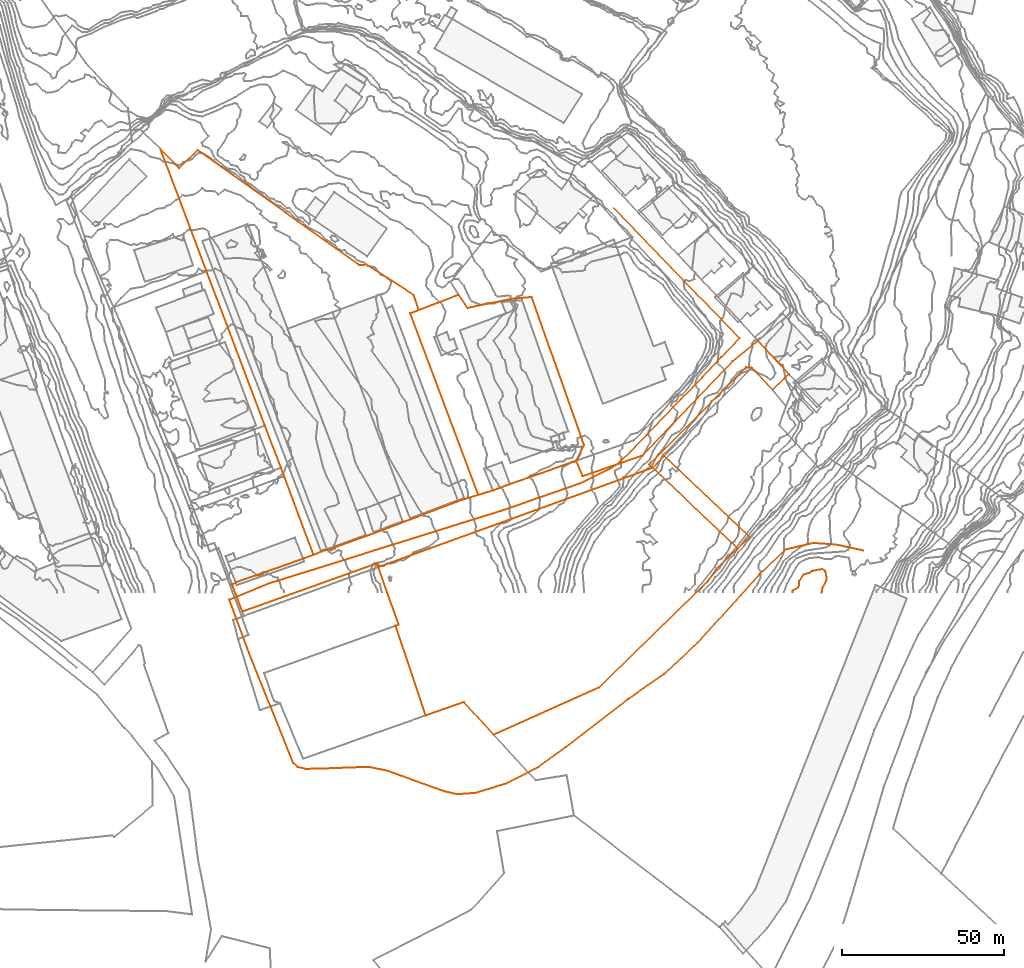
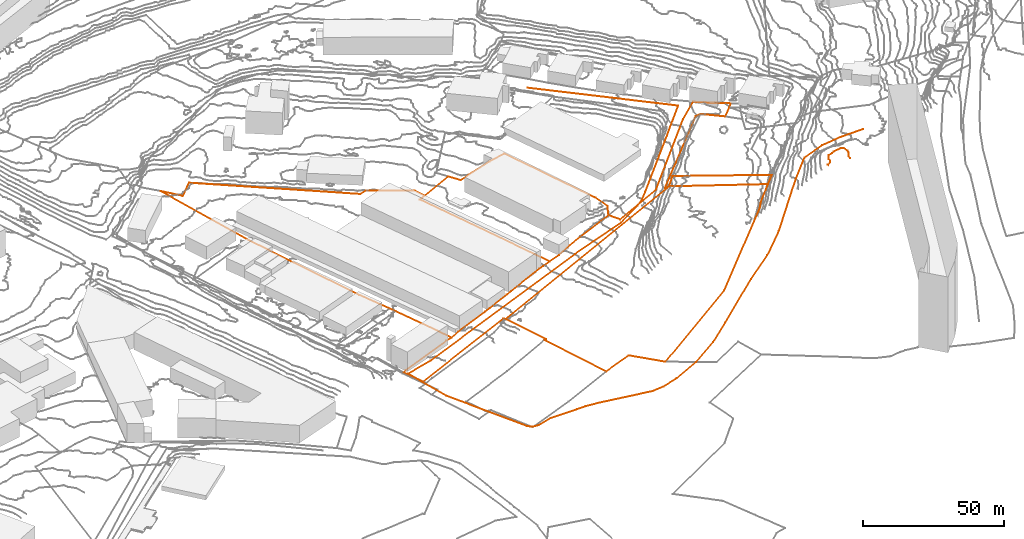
# Not in any storey, part 164 of 419: 8 proxies.
"""IFC2X3 model written with IfcOpenShell, lengths in metres."""

from ifc_helpers import new_model, entity, si_unit, frame, origin_with_axes, place, context, subcontext, project, element, save


model = new_model("IFC2X3")

# Units and contexts
model_context = context("Model", 3, precision=1e-05, world=origin_with_axes())
body_context = subcontext(model_context, "Body", "Model", "MODEL_VIEW")
ifc_project = project(units=[si_unit("AREAUNIT", "SQUARE_METRE"), si_unit("LENGTHUNIT", "METRE")], contexts=[model_context])

# Proxies
proxy_1_placement = place(None, frame((357.4920204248, -3.9023090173, 22.0), z_axis=(0.0, 0.0, 1.0), x_axis=(1.0, 0.0, 0.0)))
element("IfcBuildingElementProxy", 1, at=proxy_1_placement, Name="Route 0", ObjectType="NOTDEFINED", context=body_context, shape_type="GeometricCurveSet", body=[
    entity("IfcGeometricCurveSet", [entity("IfcPolyline", [entity("IfcCartesianPoint", [0.0, 0.0, 0.0]), entity("IfcCartesianPoint", [6.1, -16.4000000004, -1.7]), entity("IfcCartesianPoint", [19.7, -50.2999999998, 0.9]), entity("IfcCartesianPoint", [21.1, -51.5, 0.9]), entity("IfcCartesianPoint", [23.5, -52.1000000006, 1.1]), entity("IfcCartesianPoint", [28.4, -52.0, 2.4]), entity("IfcCartesianPoint", [39.4, -51.6000000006, 2.1]), entity("IfcCartesianPoint", [43.0, -51.5, 2.1]), entity("IfcCartesianPoint", [48.4, -52.6000000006, 2.5]), entity("IfcCartesianPoint", [66.2, -59.0, 5.1]), entity("IfcCartesianPoint", [70.1, -59.9000000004, 6.3]), entity("IfcCartesianPoint", [75.7, -59.5, 7.6]), entity("IfcCartesianPoint", [85.2999999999, -56.6000000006, 9.6]), entity("IfcCartesianPoint", [95.2, -51.5, 11.5]), entity("IfcCartesianPoint", [103.7999999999, -45.2999999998, 13.3]), entity("IfcCartesianPoint", [122.7999999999, -30.6000000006, 16.6]), entity("IfcCartesianPoint", [134.1, -22.7000000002, 18.1]), entity("IfcCartesianPoint", [144.2999999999, -13.2000000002, 19.2]), entity("IfcCartesianPoint", [163.4, 7.8999999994, 22.4]), entity("IfcCartesianPoint", [171.4, 15.5, 24.3]), entity("IfcCartesianPoint", [179.7999999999, 17.5, 25.4]), entity("IfcCartesianPoint", [187.0, 17.0, 26.8]), entity("IfcCartesianPoint", [195.2999999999, 15.2000000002, 28.4])])]),
])
proxy_2_placement = place(None, frame((357.4920204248, -3.9023090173, 22.0), z_axis=(0.0, 0.0, 1.0), x_axis=(1.0, 0.0, 0.0)))
element("IfcBuildingElementProxy", 2, at=proxy_2_placement, Name="Route 146", ObjectType="NOTDEFINED", context=body_context, shape_type="GeometricCurveSet", body=[
    entity("IfcGeometricCurveSet", [entity("IfcPolyline", [entity("IfcCartesianPoint", [118.4, 120.7999999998, 9.2]), entity("IfcCartesianPoint", [157.2, 80.5999999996, 12.2]), entity("IfcCartesianPoint", [151.5, 74.7000000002, 11.4]), entity("IfcCartesianPoint", [145.6, 68.5, 10.6]), entity("IfcCartesianPoint", [123.6, 45.7000000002, 7.9]), entity("IfcCartesianPoint", [120.2999999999, 42.3999999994, 7.6]), entity("IfcCartesianPoint", [117.2999999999, 40.3999999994, 7.2]), entity("IfcCartesianPoint", [107.9, 35.7999999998, 6.0]), entity("IfcCartesianPoint", [84.2999999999, 27.5999999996, 5.6]), entity("IfcCartesianPoint", [12.1, 5.0, -1.6]), entity("IfcCartesianPoint", [0.0, 0.0, 0.0])])]),
])
proxy_3_placement = place(None, frame((487.8620204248, 36.7676909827, 32.8464848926), z_axis=(0.0, 0.0, 1.0), x_axis=(1.0, 0.0, 0.0)))
element("IfcBuildingElementProxy", 3, at=proxy_3_placement, Name="Cadastre 354", ObjectType="NOTDEFINED", context=body_context, shape_type="GeometricCurveSet", body=[
    entity("IfcGeometricCurveSet", [entity("IfcPolyline", [entity("IfcCartesianPoint", [29.87, -21.3300000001, 7.4404658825]), entity("IfcCartesianPoint", [26.21, -24.8600000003, 6.8554594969]), entity("IfcCartesianPoint", [0.0, 0.0, 0.0]), entity("IfcCartesianPoint", [3.5600000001, 3.6100000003, 1.0324484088]), entity("IfcCartesianPoint", [29.87, -21.3300000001, 7.4404658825])])]),
])
proxy_4_placement = place(None, frame((403.3820204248, 6.1576909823, 23.5521357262), z_axis=(0.0, 0.0, 1.0), x_axis=(1.0, 0.0, 0.0)))
element("IfcBuildingElementProxy", 4, at=proxy_4_placement, Name="Cadastre 356", ObjectType="NOTDEFINED", context=body_context, shape_type="GeometricCurveSet", body=[
    entity("IfcGeometricCurveSet", [entity("IfcPolyline", [entity("IfcCartesianPoint", [110.6899999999, 5.75, 16.1498086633]), entity("IfcCartesianPoint", [104.23, -0.46, 14.5959037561]), entity("IfcCartesianPoint", [101.5599999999, -4.2199999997, 15.0809048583]), entity("IfcCartesianPoint", [68.03, -37.0299999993, 10.8760641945]), entity("IfcCartesianPoint", [35.59, -51.5999999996, 0.2730640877]), entity("IfcCartesianPoint", [26.36, -41.5299999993, 0.1678635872]), entity("IfcCartesianPoint", [14.62, -45.6799999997, -0.1539361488]), entity("IfcCartesianPoint", [5.35, -18.0499999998, -0.0101358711]), entity("IfcCartesianPoint", [6.2999999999, -17.7199999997, -0.1920349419]), entity("IfcCartesianPoint", [0.0, 0.0, 0.0]), entity("IfcCartesianPoint", [84.48, 30.6100000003, 9.2943491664]), entity("IfcCartesianPoint", [110.6899999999, 5.75, 16.1498086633])])]),
])
proxy_5_placement = place(None, frame((413.2020204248, 84.3676909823, 24.4697653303), z_axis=(0.0, 0.0, 1.0), x_axis=(1.0, 0.0, 0.0)))
element("IfcBuildingElementProxy", 5, at=proxy_5_placement, Name="Cadastre 360", ObjectType="NOTDEFINED", context=body_context, shape_type="GeometricCurveSet", body=[
    entity("IfcGeometricCurveSet", [entity("IfcPolyline", [entity("IfcCartesianPoint", [51.14, -45.4399999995, 2.8231346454]), entity("IfcCartesianPoint", [30.8, -52.6199999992, 1.1098951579]), entity("IfcCartesianPoint", [25.5600000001, -54.5599999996, 0.1137132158]), entity("IfcCartesianPoint", [21.04, -55.9299999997, -0.2841448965]), entity("IfcCartesianPoint", [0.0, 0.0, 0.0]), entity("IfcCartesianPoint", [2.65, 0.9900000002, 0.0665310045]), entity("IfcCartesianPoint", [14.9700000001, 5.7200000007, 1.2118404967]), entity("IfcCartesianPoint", [17.7100000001, 1.6699999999, 1.1282824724]), entity("IfcCartesianPoint", [31.1900000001, 4.4300000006, 2.8782350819]), entity("IfcCartesianPoint", [37.4400000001, 5.0100000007, 3.6849243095]), entity("IfcCartesianPoint", [51.76, -35.3699999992, 4.0172153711]), entity("IfcCartesianPoint", [53.5600000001, -40.5499999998, 2.9470462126]), entity("IfcCartesianPoint", [51.14, -45.4399999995, 2.8231346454])])]),
])
proxy_6_placement = place(None, frame((358.3720204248, 0.837690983, 19.3137602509), z_axis=(0.0, 0.0, 1.0), x_axis=(1.0, 0.0, 0.0)))
element("IfcBuildingElementProxy", 6, at=proxy_6_placement, Name="Cadastre 361", ObjectType="NOTDEFINED", context=body_context, shape_type="GeometricCurveSet", body=[
    entity("IfcGeometricCurveSet", [entity("IfcPolyline", [entity("IfcCartesianPoint", [105.97, 38.0899999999, 7.9791397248]), entity("IfcCartesianPoint", [107.98, 33.3199999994, 8.3509921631]), entity("IfcCartesianPoint", [126.37, 39.7299999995, 10.934579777]), entity("IfcCartesianPoint", [154.21, 68.7399999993, 14.0696753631]), entity("IfcCartesianPoint", [162.0, 75.1299999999, 15.0234263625]), entity("IfcCartesianPoint", [169.11, 67.4799999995, 16.643643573]), entity("IfcCartesianPoint", [171.54, 64.8399999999, 17.2247043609]), entity("IfcCartesianPoint", [170.12, 63.5099999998, 16.6964396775]), entity("IfcCartesianPoint", [166.4399999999, 60.0599999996, 16.2286392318]), entity("IfcCartesianPoint", [160.1899999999, 66.7199999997, 15.4548586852]), entity("IfcCartesianPoint", [158.3099999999, 66.8899999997, 15.1063860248]), entity("IfcCartesianPoint", [128.97, 37.46, 12.6177388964]), entity("IfcCartesianPoint", [128.4399999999, 36.9299999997, 12.5984478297]), entity("IfcCartesianPoint", [129.49, 35.9299999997, 13.5327246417]), entity("IfcCartesianPoint", [45.01, 5.3199999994, 4.2383754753]), entity("IfcCartesianPoint", [44.61, 6.5, 3.7696575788]), entity("IfcCartesianPoint", [3.13, -8.3900000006, 0.060838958]), entity("IfcCartesianPoint", [0.0, 0.0, 0.0]), entity("IfcCartesianPoint", [1.39, 0.7399999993, 0.0600523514]), entity("IfcCartesianPoint", [22.21, 8.0499999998, 1.1508869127]), entity("IfcCartesianPoint", [25.0599999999, 9.1399999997, 0.8305041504]), entity("IfcCartesianPoint", [28.3, 10.4100000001, 1.4559795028]), entity("IfcCartesianPoint", [30.2, 10.8899999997, 1.7250700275]), entity("IfcCartesianPoint", [42.1799999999, 15.2299999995, 2.3941354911]), entity("IfcCartesianPoint", [44.53, 16.0800000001, 2.5579759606]), entity("IfcCartesianPoint", [53.48, 19.4799999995, 3.1938480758]), entity("IfcCartesianPoint", [55.8199999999, 20.3799999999, 3.4051995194]), entity("IfcCartesianPoint", [70.55, 25.9499999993, 4.53752716]), entity("IfcCartesianPoint", [72.5599999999, 26.5899999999, 4.670637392]), entity("IfcCartesianPoint", [75.87, 27.5999999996, 4.8718601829]), entity("IfcCartesianPoint", [80.39, 28.9699999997, 5.2697182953]), entity("IfcCartesianPoint", [85.63, 30.9100000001, 6.2659002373]), entity("IfcCartesianPoint", [105.97, 38.0899999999, 7.9791397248])])]),
])
proxy_7_placement = place(None, frame((336.2620204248, 135.0076909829, 24.3039444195), z_axis=(0.0, 0.0, 1.0), x_axis=(1.0, 0.0, 0.0)))
element("IfcBuildingElementProxy", 7, at=proxy_7_placement, Name="Cadastre 367", ObjectType="NOTDEFINED", context=body_context, shape_type="GeometricCurveSet", body=[
    entity("IfcGeometricCurveSet", [entity("IfcPolyline", [entity("IfcCartesianPoint", [97.98, -106.5700000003, -0.1183239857]), entity("IfcCartesianPoint", [94.6699999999, -107.5800000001, -0.3195467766]), entity("IfcCartesianPoint", [92.66, -108.2200000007, -0.4526570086]), entity("IfcCartesianPoint", [77.9299999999, -113.79, -1.5849846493]), entity("IfcCartesianPoint", [75.59, -114.6900000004, -1.7963360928]), entity("IfcCartesianPoint", [66.64, -118.0899999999, -2.4322082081]), entity("IfcCartesianPoint", [64.2899999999, -118.9400000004, -2.5960486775]), entity("IfcCartesianPoint", [52.3099999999, -123.2800000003, -3.2651141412]), entity("IfcCartesianPoint", [50.41, -123.7599999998, -3.5342046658]), entity("IfcCartesianPoint", [47.1699999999, -125.0300000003, -4.1596800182]), entity("IfcCartesianPoint", [38.14, -100.8600000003, -4.2423949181]), entity("IfcCartesianPoint", [37.16, -98.21, -4.3196447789]), entity("IfcCartesianPoint", [32.1899999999, -85.21, -4.5588245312]), entity("IfcCartesianPoint", [14.26, -37.7400000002, -3.3678439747]), entity("IfcCartesianPoint", [0.0, 0.0, 0.0]), entity("IfcCartesianPoint", [5.7899999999, -5.8600000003, -0.5451942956]), entity("IfcCartesianPoint", [11.45, -0.3900000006, -0.1743361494]), entity("IfcCartesianPoint", [61.22, -35.7700000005, -1.0087449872]), entity("IfcCartesianPoint", [63.5699999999, -35.6900000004, -0.3247761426]), entity("IfcCartesianPoint", [78.0499999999, -45.0200000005, 0.2132039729]), entity("IfcCartesianPoint", [79.59, -49.6500000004, 0.2323519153]), entity("IfcCartesianPoint", [76.9399999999, -50.6400000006, 0.1658209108]), entity("IfcCartesianPoint", [97.98, -106.5700000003, -0.1183239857])])]),
])
proxy_8_placement = place(None, frame((531.0920158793, -1.6023090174, 50.0), z_axis=(0.0, 0.0, 1.0), x_axis=(1.0, 0.0, 0.0)))
element("IfcBuildingElementProxy", 8, at=proxy_8_placement, Name="Contour 50.0 m", ObjectType="NOTDEFINED", context=body_context, shape_type="GeometricCurveSet", body=[
    entity("IfcGeometricCurveSet", [entity("IfcPolyline", [entity("IfcCartesianPoint", [0.0, 0.0, 0.0]), entity("IfcCartesianPoint", [4.5454e-06, 0.5000062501, 0.0]), entity("IfcCartesianPoint", [1.5714486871, 1.5, 0.0]), entity("IfcCartesianPoint", [2.0000045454, 2.2500238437, 0.0]), entity("IfcCartesianPoint", [1.9999986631, 3.5, 0.0]), entity("IfcCartesianPoint", [3.2857266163, 5.5, 0.0]), entity("IfcCartesianPoint", [5.0000045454, 6.0000124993, 0.0]), entity("IfcCartesianPoint", [6.0000045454, 6.6110922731, 0.0]), entity("IfcCartesianPoint", [9.0000045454, 7.166666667, 0.0]), entity("IfcCartesianPoint", [10.0000045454, 6.6110922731, 0.0]), entity("IfcCartesianPoint", [10.4500035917, 4.5, 0.0]), entity("IfcCartesianPoint", [10.250008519, 3.5, 0.0]), entity("IfcCartesianPoint", [9.1600082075, 1.5, 0.0]), entity("IfcCartesianPoint", [8.9259289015, 0.0, 0.0])])]),
])

save(model, "model.ifc")
